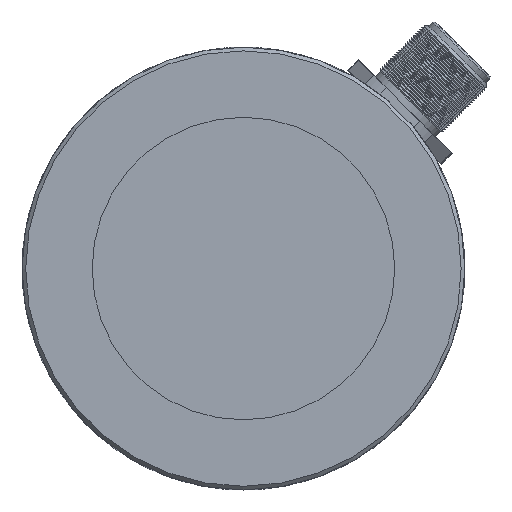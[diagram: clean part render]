
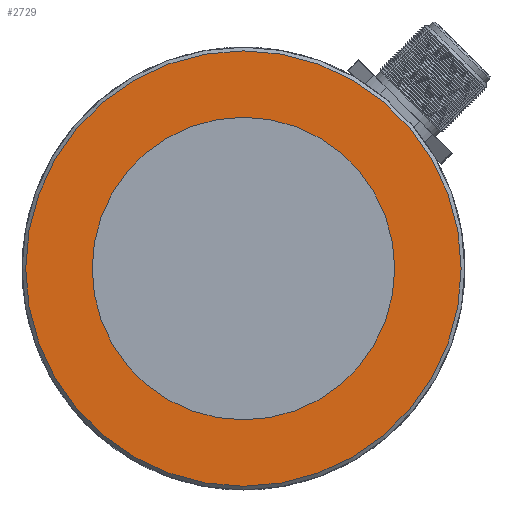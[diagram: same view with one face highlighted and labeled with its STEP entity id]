
A CAD part, left-side view. The second image highlights one B-rep face of the part: STEP entity #2729.
In plain terms, the highlighted planar face has unit normal (-1, 0, 0).
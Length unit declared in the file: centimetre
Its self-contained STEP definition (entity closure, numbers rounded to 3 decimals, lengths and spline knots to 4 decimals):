
#388=PLANE('',#2947);
#658=VERTEX_POINT('',#3252);
#675=VERTEX_POINT('',#3340);
#905=CIRCLE('',#2941,2.95);
#911=CIRCLE('',#2948,2.05);
#1058=EDGE_CURVE('',#658,#658,#905,.T.);
#1075=EDGE_CURVE('',#675,#675,#911,.T.);
#1419=ORIENTED_EDGE('',*,*,#1075,.T.);
#1420=ORIENTED_EDGE('',*,*,#1058,.F.);
#2093=EDGE_LOOP('',(#1419));
#2094=EDGE_LOOP('',(#1420));
#2414=FACE_BOUND('',#2093,.T.);
#2415=FACE_BOUND('',#2094,.T.);
#2729=ADVANCED_FACE('',(#2414,#2415),#388,.F.);
#2941=AXIS2_PLACEMENT_3D('',#3251,#4314,#4315);
#2947=AXIS2_PLACEMENT_3D('',#3338,#4332,$);
#2948=AXIS2_PLACEMENT_3D('',#3339,#4333,#4334);
#3251=CARTESIAN_POINT('',(-2.4,0.,0.));
#3252=CARTESIAN_POINT('',(-2.4,0.,-2.95));
#3338=CARTESIAN_POINT('',(-2.4,0.,0.));
#3339=CARTESIAN_POINT('',(-2.4,0.,0.));
#3340=CARTESIAN_POINT('',(-2.4,0.,-2.05));
#4314=DIRECTION('',(1.,0.,0.));
#4315=DIRECTION('',(0.,0.,2.95));
#4332=DIRECTION('',(1.,0.,0.));
#4333=DIRECTION('',(1.,0.,0.));
#4334=DIRECTION('',(0.,0.,-2.05));
